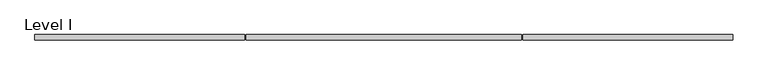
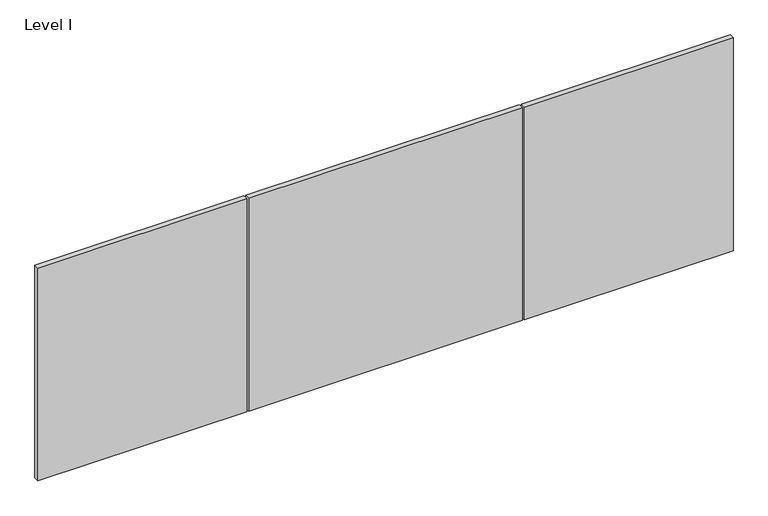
"""IFC4 building model written with IfcOpenShell, lengths in millimetres: proxy geometry, Panel-Fascia-Teknion-Altos-Landscape_Desk : Level I."""

from ifc_helpers import new_model, si_unit, frame, origin, place, context, project, spatial, polyline, outline, extrude, source, transform, mapped, element, save


def level_i_94c8ecd2(model_context):
    return source(origin(), model_context, "Body", "SweptSolid", [
        extrude(outline(polyline([(-1252.8407125, -9.525), (-1252.8407125, 9.525), (-500.0498, 9.525), (-500.0498, -9.525), (-1252.8407125, -9.525)])), frame((0.0, 0.0, 3.175), z_axis=(0.0, 0.0, 1.0), x_axis=(1.0, 0.0, 0.0)), (0.0, 0.0, 1.0), 810.768),
        extrude(outline(polyline([(1252.8407125, 9.525), (1252.8407125, -9.525), (500.0498, -9.525), (500.0498, 9.525), (1252.8407125, 9.525)])), frame((0.0, 0.0, 3.175), z_axis=(0.0, 0.0, 1.0), x_axis=(1.0, 0.0, 0.0)), (0.0, 0.0, 1.0), 810.768),
        extrude(outline(polyline([(493.6998, -9.525), (-493.6998, -9.525), (-493.6998, 9.525), (493.6998, 9.525), (493.6998, -9.525)])), frame((0.0, 0.0, 3.175), z_axis=(0.0, 0.0, 1.0), x_axis=(1.0, 0.0, 0.0)), (0.0, 0.0, 1.0), 810.768),
    ])


if __name__ == "__main__":
    model = new_model("IFC4")
    model_context = context("Model", 3, world=origin())
    ifc_project = project(units=[si_unit("LENGTHUNIT", "METRE", prefix="MILLI")], contexts=[model_context])
    site = spatial("IfcSite", under=ifc_project)
    building = spatial("IfcBuilding", under=site)
    placement = place(None, origin())
    level_i_shape = level_i_94c8ecd2(model_context)
    element("IfcBuildingElementProxy", 1, Name="Panel-Fascia-Teknion-Altos-Landscape_Desk : Level I", ObjectType="Panel-Fascia-Teknion-Altos-Landscape_Desk : Level I", at=placement, inside=building, context=model_context, shape_type="MappedRepresentation", body=[
        mapped(level_i_shape, transform((0.0, 0.0, 0.0), x_axis=(1.0, 0.0, 0.0), y_axis=(0.0, 1.0, 0.0), z_axis=(0.0, 0.0, 1.0))),
    ])
    save(model, "model.ifc")
